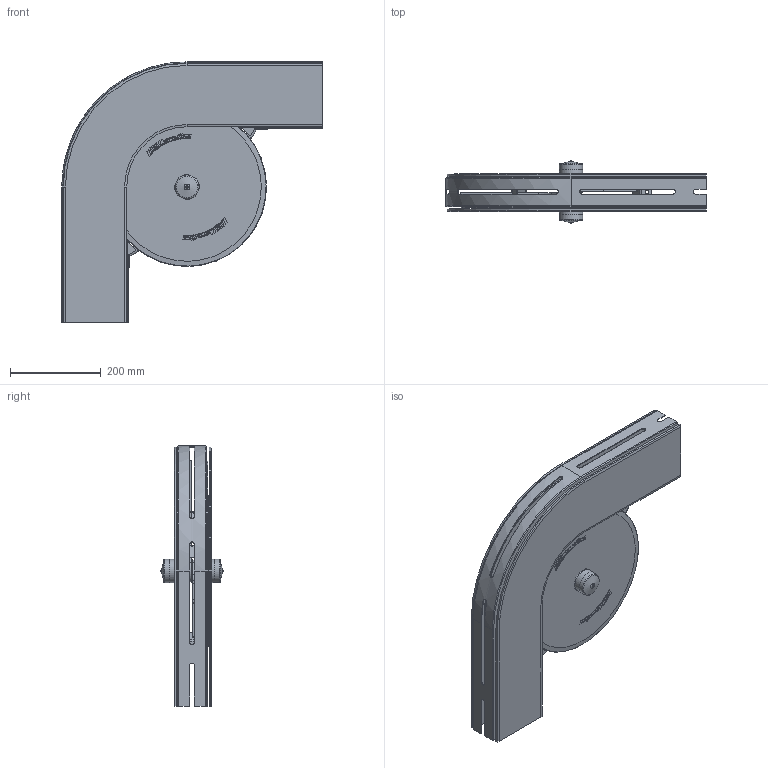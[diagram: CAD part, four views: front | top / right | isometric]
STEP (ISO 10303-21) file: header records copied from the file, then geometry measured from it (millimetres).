
FILE_DESCRIPTION(/* description */ ('WHEELCURVE 90° SERIE 540'),/* implementation_level */ '2;1');
FILE_NAME(/* name */ '540-5055-90.stp',/* time_stamp */ '2022-09-21T15:39:09+02:00',/* author */ ('ML'),/* organization */ ('CARRYLINE'),/* preprocessor_version */ 'ST-DEVELOPER v19.2',/* originating_system */ 'Autodesk Inventor 2023',/* authorisation */ '');
FILE_SCHEMA (('AUTOMOTIVE_DESIGN { 1 0 10303 214 3 1 1 }'));
Length unit declared in the file: millimetre
Products named in the file (8): 540-5055-90; 540-5375+140-2000-01; 14261_2; 14261_11; 14261_12; 830-5060_1; 830-5062; 14261_21
Assembly tree (10 placements, depth 2):
  540-5055-90
    540-5375+140-2000-01
    14261_2
    14261_11
    14261_12
    14261_21  x2
    830-5060_1  x2
    830-5062  x2
Bounding box: 573 x 136.8 x 573 mm (x, y, z)
Volume: 3599336.9 mm3; surface area: 1780532.5 mm2
Topology: 11 solids, 11 shells, 1398 faces, 3507 edges, 2204 vertices
Faces by surface type: plane 805, bspline 264, cylinder 197, cone 66, torus 62, sphere 4
Full cylindrical faces by diameter (mm): 4.917 x8, 6.2 x8, 8.5 x2, 16.2 x2, 17 x4, 20 x4, 30 x3, 40 x4, 47.6 x2, 51.3 x2, 350 x2
Entity records: 32001 total; most frequent: CARTESIAN_POINT 11964, ORIENTED_EDGE 4206, DIRECTION 3846, EDGE_CURVE 2103, VERTEX_POINT 1348, LINE 1320, VECTOR 1320, AXIS2_PLACEMENT_3D 1263
